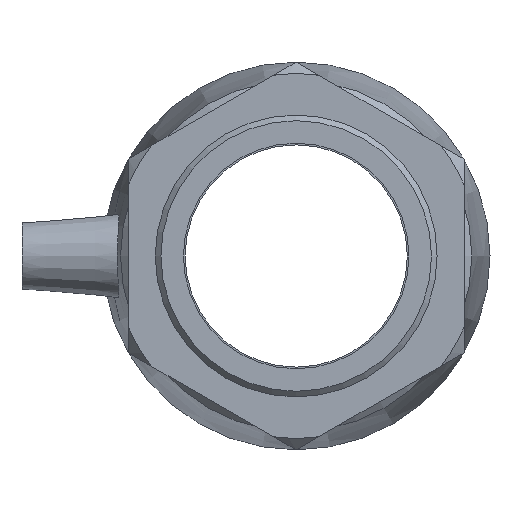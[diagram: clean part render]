
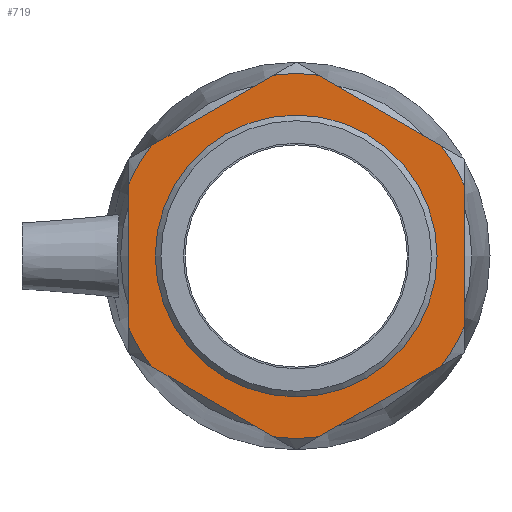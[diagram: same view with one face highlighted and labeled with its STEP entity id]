
A CAD part, left-side view. The second image highlights one B-rep face of the part: STEP entity #719.
In plain terms, the highlighted planar face has unit normal (-1, 0, 0).
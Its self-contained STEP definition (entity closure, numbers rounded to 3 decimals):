
#38=FACE_BOUND('',#220,.T.);
#65=CIRCLE('',#759,38.54);
#66=CIRCLE('',#761,38.54);
#67=CIRCLE('',#763,38.54);
#68=CIRCLE('',#765,38.54);
#69=CIRCLE('',#767,38.54);
#70=CIRCLE('',#769,38.54);
#86=CIRCLE('',#799,29.807);
#156=FACE_OUTER_BOUND('',#219,.T.);
#219=EDGE_LOOP('',(#606,#607,#608,#609,#610,#611,#612,#613,#614,#615,#616,
#617));
#220=EDGE_LOOP('',(#618));
#275=LINE('',#1077,#293);
#279=LINE('',#1101,#297);
#285=LINE('',#1141,#303);
#286=LINE('',#1148,#304);
#289=LINE('',#1170,#307);
#292=LINE('',#1201,#310);
#293=VECTOR('',#855,29.972);
#297=VECTOR('',#861,29.972);
#303=VECTOR('',#869,29.972);
#304=VECTOR('',#872,29.972);
#307=VECTOR('',#877,29.972);
#310=VECTOR('',#882,29.972);
#335=VERTEX_POINT('',#1071);
#337=VERTEX_POINT('',#1076);
#343=VERTEX_POINT('',#1096);
#344=VERTEX_POINT('',#1100);
#350=VERTEX_POINT('',#1119);
#356=VERTEX_POINT('',#1137);
#357=VERTEX_POINT('',#1143);
#358=VERTEX_POINT('',#1147);
#363=VERTEX_POINT('',#1165);
#364=VERTEX_POINT('',#1169);
#367=VERTEX_POINT('',#1184);
#370=VERTEX_POINT('',#1197);
#382=VERTEX_POINT('',#1322);
#407=EDGE_CURVE('',#337,#335,#275,.T.);
#415=EDGE_CURVE('',#344,#343,#279,.T.);
#428=EDGE_CURVE('',#350,#356,#285,.T.);
#430=EDGE_CURVE('',#358,#357,#286,.T.);
#437=EDGE_CURVE('',#364,#363,#289,.T.);
#447=EDGE_CURVE('',#367,#370,#292,.T.);
#448=EDGE_CURVE('',#358,#363,#65,.T.);
#449=EDGE_CURVE('',#364,#356,#66,.T.);
#450=EDGE_CURVE('',#350,#370,#67,.T.);
#451=EDGE_CURVE('',#344,#357,#68,.T.);
#452=EDGE_CURVE('',#337,#343,#69,.T.);
#453=EDGE_CURVE('',#367,#335,#70,.T.);
#471=EDGE_CURVE('',#382,#382,#86,.T.);
#606=ORIENTED_EDGE('',*,*,#407,.T.);
#607=ORIENTED_EDGE('',*,*,#453,.F.);
#608=ORIENTED_EDGE('',*,*,#447,.T.);
#609=ORIENTED_EDGE('',*,*,#450,.F.);
#610=ORIENTED_EDGE('',*,*,#428,.T.);
#611=ORIENTED_EDGE('',*,*,#449,.F.);
#612=ORIENTED_EDGE('',*,*,#437,.T.);
#613=ORIENTED_EDGE('',*,*,#448,.F.);
#614=ORIENTED_EDGE('',*,*,#430,.T.);
#615=ORIENTED_EDGE('',*,*,#451,.F.);
#616=ORIENTED_EDGE('',*,*,#415,.T.);
#617=ORIENTED_EDGE('',*,*,#452,.F.);
#618=ORIENTED_EDGE('',*,*,#471,.T.);
#682=PLANE('',#798);
#719=ADVANCED_FACE('',(#156,#38),#682,.T.);
#759=AXIS2_PLACEMENT_3D('',#1203,#885,#886);
#761=AXIS2_PLACEMENT_3D('',#1205,#889,#890);
#763=AXIS2_PLACEMENT_3D('',#1207,#893,#894);
#765=AXIS2_PLACEMENT_3D('',#1209,#897,#898);
#767=AXIS2_PLACEMENT_3D('',#1211,#901,#902);
#769=AXIS2_PLACEMENT_3D('',#1213,#905,#906);
#798=AXIS2_PLACEMENT_3D('',#1321,#963,#964);
#799=AXIS2_PLACEMENT_3D('',#1323,#965,#966);
#855=DIRECTION('',(0.,0.866,0.5));
#861=DIRECTION('',(0.,0.,1.));
#869=DIRECTION('',(0.,0.,-1.));
#872=DIRECTION('',(0.,-0.866,0.5));
#877=DIRECTION('',(0.,-0.866,-0.5));
#882=DIRECTION('',(0.,0.866,-0.5));
#885=DIRECTION('center_axis',(1.,0.,0.));
#886=DIRECTION('ref_axis',(0.,-1.,0.));
#889=DIRECTION('center_axis',(1.,0.,0.));
#890=DIRECTION('ref_axis',(0.,-1.,0.));
#893=DIRECTION('center_axis',(1.,0.,0.));
#894=DIRECTION('ref_axis',(0.,-1.,0.));
#897=DIRECTION('center_axis',(1.,0.,0.));
#898=DIRECTION('ref_axis',(0.,-1.,0.));
#901=DIRECTION('center_axis',(1.,0.,0.));
#902=DIRECTION('ref_axis',(0.,-1.,0.));
#905=DIRECTION('center_axis',(1.,0.,0.));
#906=DIRECTION('ref_axis',(0.,-1.,0.));
#963=DIRECTION('center_axis',(-1.,0.,0.));
#964=DIRECTION('ref_axis',(0.,0.,1.));
#965=DIRECTION('center_axis',(1.,0.,0.));
#966=DIRECTION('ref_axis',(0.,0.,-1.));
#1071=CARTESIAN_POINT('',(-75.85,-4.775,38.243));
#1076=CARTESIAN_POINT('',(-75.85,-30.732,23.257));
#1077=CARTESIAN_POINT('',(-75.85,6.498,44.752));
#1096=CARTESIAN_POINT('',(-75.85,-35.507,14.986));
#1100=CARTESIAN_POINT('',(-75.85,-35.507,-14.986));
#1101=CARTESIAN_POINT('',(-75.85,-35.507,10.25));
#1119=CARTESIAN_POINT('',(-75.85,35.507,14.986));
#1137=CARTESIAN_POINT('',(-75.85,35.507,-14.986));
#1141=CARTESIAN_POINT('',(-75.85,35.507,-10.25));
#1143=CARTESIAN_POINT('',(-75.85,-30.732,-23.257));
#1147=CARTESIAN_POINT('',(-75.85,-4.775,-38.243));
#1148=CARTESIAN_POINT('',(-75.85,-11.255,-34.502));
#1165=CARTESIAN_POINT('',(-75.85,4.775,-38.243));
#1169=CARTESIAN_POINT('',(-75.85,30.732,-23.257));
#1170=CARTESIAN_POINT('',(-75.85,24.252,-26.998));
#1184=CARTESIAN_POINT('',(-75.85,4.775,38.243));
#1197=CARTESIAN_POINT('',(-75.85,30.732,23.257));
#1201=CARTESIAN_POINT('',(-75.85,42.005,16.748));
#1203=CARTESIAN_POINT('Origin',(-75.85,0.,0.));
#1205=CARTESIAN_POINT('Origin',(-75.85,0.,0.));
#1207=CARTESIAN_POINT('Origin',(-75.85,0.,0.));
#1209=CARTESIAN_POINT('Origin',(-75.85,0.,0.));
#1211=CARTESIAN_POINT('Origin',(-75.85,0.,0.));
#1213=CARTESIAN_POINT('Origin',(-75.85,0.,0.));
#1321=CARTESIAN_POINT('Origin',(-75.85,41.,0.));
#1322=CARTESIAN_POINT('',(-75.85,29.807,0.));
#1323=CARTESIAN_POINT('Origin',(-75.85,0.,0.));
